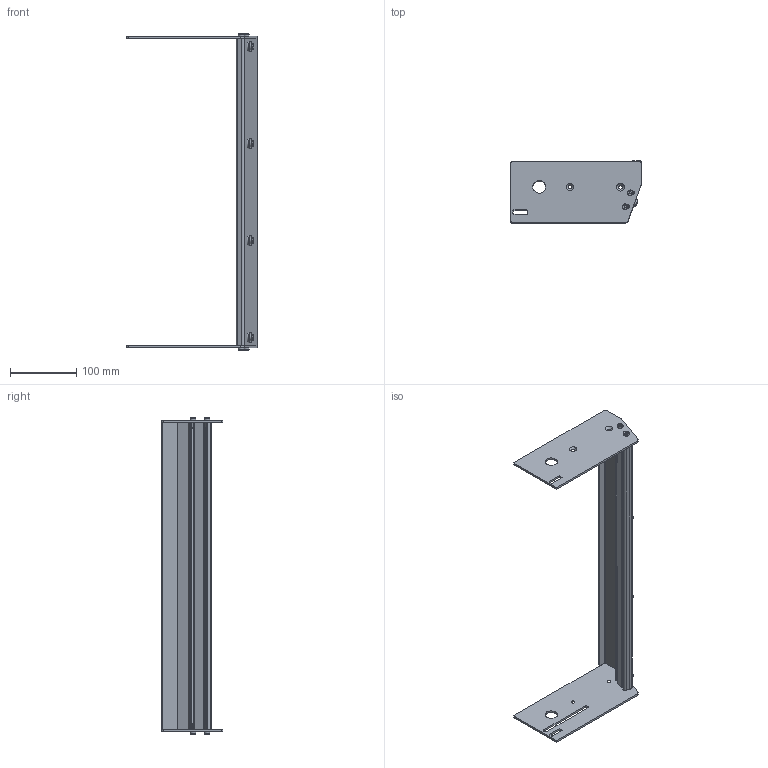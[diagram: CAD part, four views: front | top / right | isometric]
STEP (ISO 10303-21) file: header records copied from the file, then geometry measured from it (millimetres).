
FILE_DESCRIPTION((''),'2;1');
FILE_NAME('351199-18_ASM','2023-03-15T',('jenni.wallner'),(''),'PRO/ENGINEER BY PARAMETRIC TECHNOLOGY CORPORATION, 2012420','PRO/ENGINEER BY PARAMETRIC TECHNOLOGY CORPORATION, 2012420','');
FILE_SCHEMA(('CONFIG_CONTROL_DESIGN'));
Length unit declared in the file: inch
Products named in the file (10): 990603M; 9506XXM_950612M; 9505XXM_950512M; 605279P; 351203-WW_351203-18; 351200_DEFAULT_AS_MACHINED_; 351202-WW_351202-18; 351201; ASM0001_ASM; 351199-18_ASM
Assembly tree (21 placements, depth 3):
  351199-18_ASM
    ASM0001_ASM
      990603M  x4
      9506XXM_950612M  x4
      9505XXM_950512M  x4
      605279P  x4
      351203-WW_351203-18
      351200_DEFAULT_AS_MACHINED_
      351202-WW_351202-18
      351201
Bounding box: 196.11 x 93.08 x 476.29 mm (x, y, z)
Volume: 289548.4 mm3; surface area: 232085.5 mm2
Topology: 20 solids, 20 shells, 419 faces, 995 edges, 632 vertices
Faces by surface type: plane 190, cylinder 145, cone 84
Entity records: 7939 total; most frequent: CARTESIAN_POINT 1457, DIRECTION 1422, ORIENTED_EDGE 1240, EDGE_CURVE 620, AXIS2_PLACEMENT_3D 535, VERTEX_POINT 404, VECTOR 352, LINE 352
